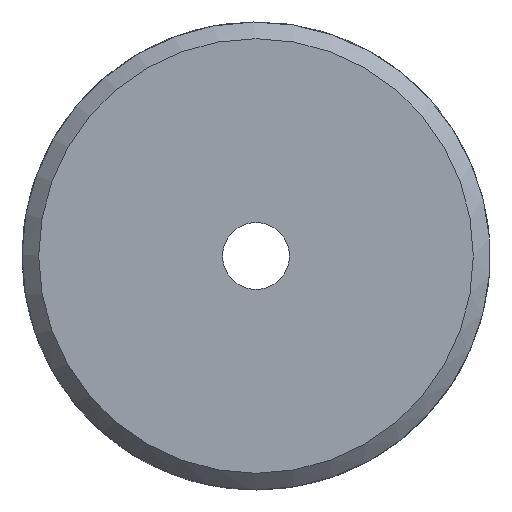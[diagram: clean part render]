
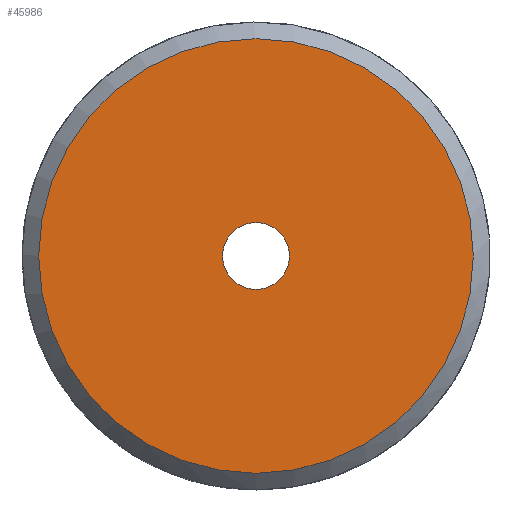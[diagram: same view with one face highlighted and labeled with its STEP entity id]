
A CAD part, left-side view. The second image highlights one B-rep face of the part: STEP entity #45986.
In plain terms, the highlighted planar face has unit normal (-1, 0, 0).
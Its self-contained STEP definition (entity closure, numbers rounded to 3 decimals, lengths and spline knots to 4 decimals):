
#12997=PLANE('',#45405);
#16762=ORIENTED_EDGE('',*,*,#19344,.F.);
#16763=ORIENTED_EDGE('',*,*,#19343,.F.);
#17181=CIRCLE('',#45404,1.);
#17182=CIRCLE('',#45406,6.5);
#18046=VERTEX_POINT('',#44570);
#18047=VERTEX_POINT('',#44573);
#19343=EDGE_CURVE('',#18046,#18046,#17181,.T.);
#19344=EDGE_CURVE('',#18047,#18047,#17182,.T.);
#19783=EDGE_LOOP('',(#16762));
#19784=EDGE_LOOP('',(#16763));
#20225=FACE_BOUND('',#19783,.T.);
#20226=FACE_BOUND('',#19784,.T.);
#21881=DIRECTION('',(-1.,0.,0.));
#21882=DIRECTION('',(0.,1.,0.));
#21883=DIRECTION('',(-1.,0.,0.));
#21884=DIRECTION('',(0.,1.,0.));
#21885=DIRECTION('',(1.,0.,0.));
#21886=DIRECTION('',(0.,-6.5,0.));
#44570=CARTESIAN_POINT('',(0.,1.,0.));
#44571=CARTESIAN_POINT('',(0.,0.,0.));
#44572=CARTESIAN_POINT('',(0.,-6.5,0.));
#44573=CARTESIAN_POINT('',(0.,-6.5,0.));
#44574=CARTESIAN_POINT('',(0.,0.,0.));
#45404=AXIS2_PLACEMENT_3D('',#44571,#21881,#21882);
#45405=AXIS2_PLACEMENT_3D('',#44572,#21883,#21884);
#45406=AXIS2_PLACEMENT_3D('',#44574,#21885,#21886);
#45986=ADVANCED_FACE('',(#20225,#20226),#12997,.T.);
